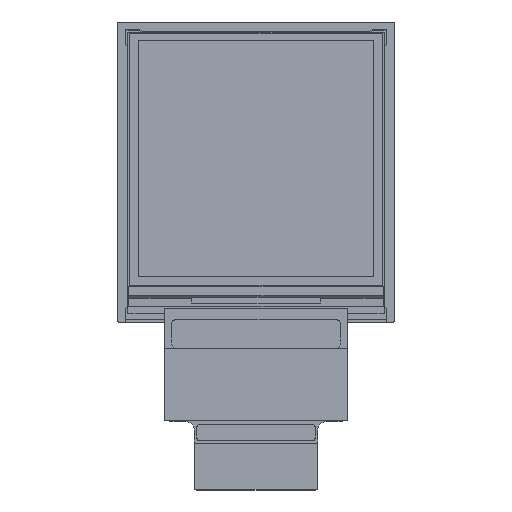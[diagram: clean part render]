
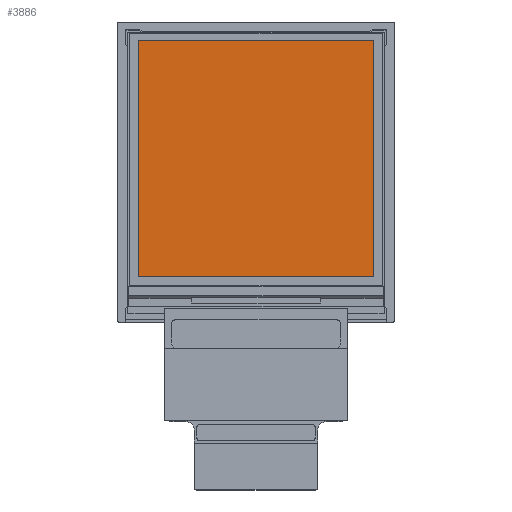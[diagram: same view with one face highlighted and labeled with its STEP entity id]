
A CAD part, top view. The second image highlights one B-rep face of the part: STEP entity #3886.
In plain terms, the highlighted planar face has unit normal (0, 0, 1).
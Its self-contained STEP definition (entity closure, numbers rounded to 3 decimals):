
#240 = DIRECTION ( 'NONE',  ( -1., 0., 0. ) ) ;
#604 = EDGE_LOOP ( 'NONE', ( #3740, #694, #3310, #4911 ) ) ;
#648 = VERTEX_POINT ( 'NONE', #7517 ) ;
#694 = ORIENTED_EDGE ( 'NONE', *, *, #5954, .F. ) ;
#1305 = VECTOR ( 'NONE', #3983, 1000. ) ;
#1600 = CARTESIAN_POINT ( 'NONE',  ( 13.86, 13.86, -1.328 ) ) ;
#1882 = LINE ( 'NONE', #7805, #1305 ) ;
#2353 = CARTESIAN_POINT ( 'NONE',  ( 13.86, -13.86, -1.328 ) ) ;
#2685 = VERTEX_POINT ( 'NONE', #7746 ) ;
#2859 = DIRECTION ( 'NONE',  ( 0., -1., 0. ) ) ;
#2955 = CARTESIAN_POINT ( 'NONE',  ( 13.86, 13.86, -1.328 ) ) ;
#3127 = DIRECTION ( 'NONE',  ( 1., 0., 0. ) ) ;
#3310 = ORIENTED_EDGE ( 'NONE', *, *, #9009, .F. ) ;
#3531 = LINE ( 'NONE', #4182, #6355 ) ;
#3595 = AXIS2_PLACEMENT_3D ( 'NONE', #8868, #5955, #3127 ) ;
#3740 = ORIENTED_EDGE ( 'NONE', *, *, #7653, .F. ) ;
#3801 = VECTOR ( 'NONE', #240, 1000. ) ;
#3886 = ADVANCED_FACE ( 'NONE', ( #6577 ), #5354, .T. ) ;
#3983 = DIRECTION ( 'NONE',  ( 0., 1., 0. ) ) ;
#4137 = VERTEX_POINT ( 'NONE', #6274 ) ;
#4182 = CARTESIAN_POINT ( 'NONE',  ( -13.86, 13.86, -1.328 ) ) ;
#4358 = LINE ( 'NONE', #2353, #3801 ) ;
#4911 = ORIENTED_EDGE ( 'NONE', *, *, #6855, .F. ) ;
#5144 = LINE ( 'NONE', #2955, #8163 ) ;
#5354 = PLANE ( 'NONE',  #3595 ) ;
#5954 = EDGE_CURVE ( 'NONE', #4137, #648, #4358, .T. ) ;
#5955 = DIRECTION ( 'NONE',  ( 0., 0., 1. ) ) ;
#6274 = CARTESIAN_POINT ( 'NONE',  ( 13.86, -13.86, -1.328 ) ) ;
#6355 = VECTOR ( 'NONE', #9186, 1000. ) ;
#6577 = FACE_OUTER_BOUND ( 'NONE', #604, .T. ) ;
#6855 = EDGE_CURVE ( 'NONE', #2685, #9022, #3531, .T. ) ;
#7517 = CARTESIAN_POINT ( 'NONE',  ( -13.86, -13.86, -1.328 ) ) ;
#7653 = EDGE_CURVE ( 'NONE', #648, #2685, #1882, .T. ) ;
#7746 = CARTESIAN_POINT ( 'NONE',  ( -13.86, 13.86, -1.328 ) ) ;
#7805 = CARTESIAN_POINT ( 'NONE',  ( -13.86, -13.86, -1.328 ) ) ;
#8163 = VECTOR ( 'NONE', #2859, 1000. ) ;
#8868 = CARTESIAN_POINT ( 'NONE',  ( 0., 0., -1.328 ) ) ;
#9009 = EDGE_CURVE ( 'NONE', #9022, #4137, #5144, .T. ) ;
#9022 = VERTEX_POINT ( 'NONE', #1600 ) ;
#9186 = DIRECTION ( 'NONE',  ( 1., 0., 0. ) ) ;
